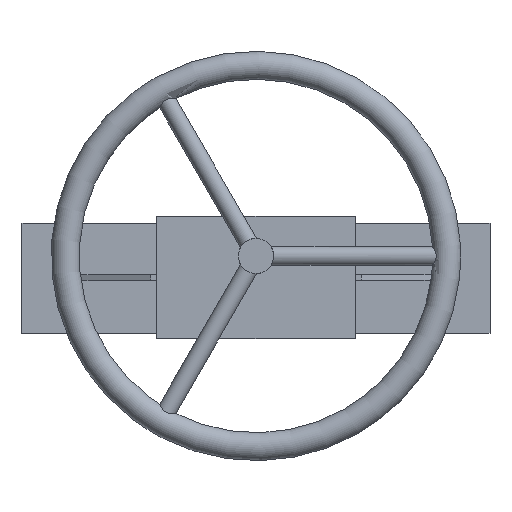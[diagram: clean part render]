
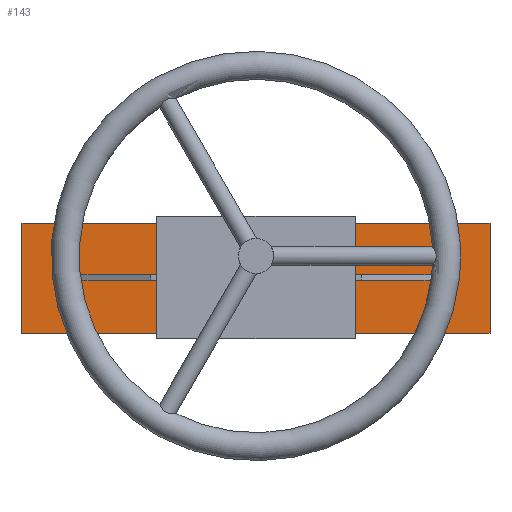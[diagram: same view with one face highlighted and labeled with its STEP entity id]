
A CAD part, top view. The second image highlights one B-rep face of the part: STEP entity #143.
In plain terms, the highlighted planar face has unit normal (0, 0, 1).
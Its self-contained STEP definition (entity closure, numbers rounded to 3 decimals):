
#143=ADVANCED_FACE('',(#1184,#1186,#1188),#1190,.T.);
#1184=FACE_BOUND('',#1185,.T.);
#1185=EDGE_LOOP('',(#2089,#2090,#2091,#2092,#2093,#2094,#2095,#2096));
#1186=FACE_BOUND('',#1187,.T.);
#1187=EDGE_LOOP('',(#2097,#2098,#2099,#2100));
#1188=FACE_BOUND('',#1189,.T.);
#1189=EDGE_LOOP('',(#2101));
#1190=PLANE('',#1191);
#1191=AXIS2_PLACEMENT_3D('',#1192,#1193,#1194);
#1192=CARTESIAN_POINT('',(0.,0.,330.));
#1193=DIRECTION('',(0.,0.,1.));
#1194=DIRECTION('',(1.,0.,0.));
#2089=ORIENTED_EDGE('',*,*,#2631,.F.);
#2090=ORIENTED_EDGE('',*,*,#2632,.T.);
#2091=ORIENTED_EDGE('',*,*,#2633,.T.);
#2092=ORIENTED_EDGE('',*,*,#2634,.T.);
#2093=ORIENTED_EDGE('',*,*,#2635,.F.);
#2094=ORIENTED_EDGE('',*,*,#2636,.T.);
#2095=ORIENTED_EDGE('',*,*,#2637,.T.);
#2096=ORIENTED_EDGE('',*,*,#2638,.T.);
#2097=ORIENTED_EDGE('',*,*,#2639,.F.);
#2098=ORIENTED_EDGE('',*,*,#2621,.F.);
#2099=ORIENTED_EDGE('',*,*,#2640,.F.);
#2100=ORIENTED_EDGE('',*,*,#2597,.F.);
#2101=ORIENTED_EDGE('',*,*,#2614,.F.);
#2597=EDGE_CURVE('',#2878,#2880,#2881,.T.);
#2614=EDGE_CURVE('',#2911,#2911,#2912,.F.);
#2621=EDGE_CURVE('',#2922,#2924,#2925,.F.);
#2631=EDGE_CURVE('',#2939,#2940,#2941,.T.);
#2632=EDGE_CURVE('',#2939,#2942,#2943,.T.);
#2633=EDGE_CURVE('',#2942,#2944,#2945,.T.);
#2634=EDGE_CURVE('',#2944,#2946,#2947,.T.);
#2635=EDGE_CURVE('',#2948,#2946,#2949,.T.);
#2636=EDGE_CURVE('',#2948,#2950,#2951,.T.);
#2637=EDGE_CURVE('',#2950,#2952,#2953,.T.);
#2638=EDGE_CURVE('',#2952,#2940,#2954,.T.);
#2639=EDGE_CURVE('',#2924,#2878,#2955,.T.);
#2640=EDGE_CURVE('',#2880,#2922,#2956,.T.);
#2878=VERTEX_POINT('',#3360);
#2880=VERTEX_POINT('',#3364);
#2881=LINE('',#3365,#3366);
#2911=VERTEX_POINT('',#3432);
#2912=CIRCLE('',#3433,15.);
#2922=VERTEX_POINT('',#3456);
#2924=VERTEX_POINT('',#3460);
#2925=LINE('',#3461,#3462);
#2939=VERTEX_POINT('',#3495);
#2940=VERTEX_POINT('',#3496);
#2941=LINE('',#3497,#3498);
#2942=VERTEX_POINT('',#3500);
#2943=LINE('',#3501,#3502);
#2944=VERTEX_POINT('',#3504);
#2945=LINE('',#3505,#3506);
#2946=VERTEX_POINT('',#3508);
#2947=LINE('',#3509,#3510);
#2948=VERTEX_POINT('',#3512);
#2949=LINE('',#3513,#3514);
#2950=VERTEX_POINT('',#3516);
#2951=LINE('',#3517,#3518);
#2952=VERTEX_POINT('',#3520);
#2953=LINE('',#3521,#3522);
#2954=LINE('',#3524,#3525);
#2955=LINE('',#3527,#3528);
#2956=LINE('',#3530,#3531);
#3360=CARTESIAN_POINT('',(-160.,-2.5,330.));
#3364=CARTESIAN_POINT('',(160.,-2.5,330.));
#3365=CARTESIAN_POINT('',(-160.,-2.5,330.));
#3366=VECTOR('',#3367,1.);
#3367=DIRECTION('',(1.,0.,0.));
#3432=CARTESIAN_POINT('',(0.,33.,330.));
#3433=AXIS2_PLACEMENT_3D('',#3434,#3435,#3436);
#3434=CARTESIAN_POINT('',(0.,18.,330.));
#3435=DIRECTION('',(-0.,-0.,-1.));
#3436=DIRECTION('',(0.,1.,0.));
#3456=CARTESIAN_POINT('',(160.,2.5,330.));
#3460=CARTESIAN_POINT('',(-160.,2.5,330.));
#3461=CARTESIAN_POINT('',(-160.,2.5,330.));
#3462=VECTOR('',#3463,1.);
#3463=DIRECTION('',(1.,0.,0.));
#3495=CARTESIAN_POINT('',(85.,-47.,330.));
#3496=CARTESIAN_POINT('',(-85.,-47.,330.));
#3497=CARTESIAN_POINT('',(85.,-47.,330.));
#3498=VECTOR('',#3499,1.);
#3499=DIRECTION('',(-1.,0.,0.));
#3500=CARTESIAN_POINT('',(200.,-47.,330.));
#3501=CARTESIAN_POINT('',(85.,-47.,330.));
#3502=VECTOR('',#3503,1.);
#3503=DIRECTION('',(1.,0.,0.));
#3504=CARTESIAN_POINT('',(200.,47.,330.));
#3505=CARTESIAN_POINT('',(200.,-47.,330.));
#3506=VECTOR('',#3507,1.);
#3507=DIRECTION('',(0.,1.,0.));
#3508=CARTESIAN_POINT('',(85.,47.,330.));
#3509=CARTESIAN_POINT('',(200.,47.,330.));
#3510=VECTOR('',#3511,1.);
#3511=DIRECTION('',(-1.,0.,0.));
#3512=CARTESIAN_POINT('',(-85.,47.,330.));
#3513=CARTESIAN_POINT('',(-85.,47.,330.));
#3514=VECTOR('',#3515,1.);
#3515=DIRECTION('',(1.,0.,0.));
#3516=CARTESIAN_POINT('',(-200.,47.,330.));
#3517=CARTESIAN_POINT('',(-85.,47.,330.));
#3518=VECTOR('',#3519,1.);
#3519=DIRECTION('',(-1.,0.,0.));
#3520=CARTESIAN_POINT('',(-200.,-47.,330.));
#3521=CARTESIAN_POINT('',(-200.,47.,330.));
#3522=VECTOR('',#3523,1.);
#3523=DIRECTION('',(0.,-1.,0.));
#3524=CARTESIAN_POINT('',(-200.,-47.,330.));
#3525=VECTOR('',#3526,1.);
#3526=DIRECTION('',(1.,0.,0.));
#3527=CARTESIAN_POINT('',(-160.,2.5,330.));
#3528=VECTOR('',#3529,1.);
#3529=DIRECTION('',(0.,-1.,0.));
#3530=CARTESIAN_POINT('',(160.,-2.5,330.));
#3531=VECTOR('',#3532,1.);
#3532=DIRECTION('',(0.,1.,0.));
